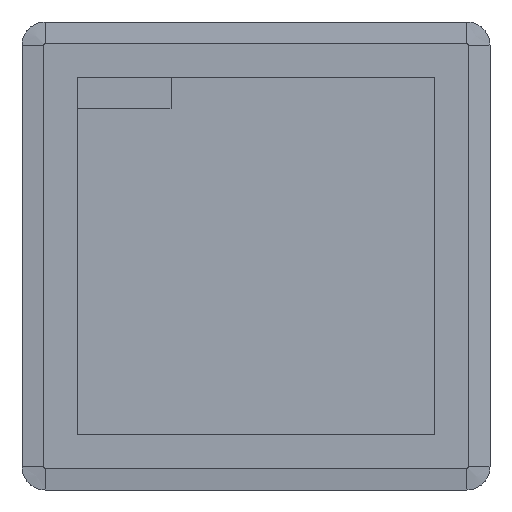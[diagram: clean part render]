
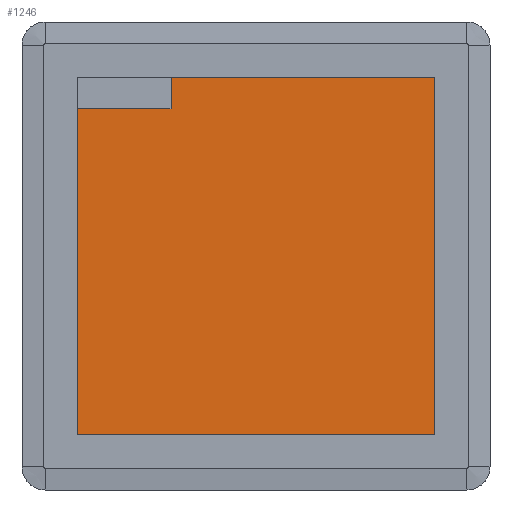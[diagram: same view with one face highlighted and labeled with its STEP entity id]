
A CAD part, front view. The second image highlights one B-rep face of the part: STEP entity #1246.
In plain terms, the highlighted planar face has unit normal (0, -1, 0).
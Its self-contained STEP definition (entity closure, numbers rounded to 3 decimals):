
#1246=ADVANCED_FACE('',(#2362),#19785,.T.);
#2362=FACE_OUTER_BOUND('',#3565,.T.);
#3565=EDGE_LOOP('',(#9564,#9565,#9566,#9567,#9568,#9569));
#9564=ORIENTED_EDGE('',*,*,#13023,.T.);
#9565=ORIENTED_EDGE('',*,*,#13022,.T.);
#9566=ORIENTED_EDGE('',*,*,#13021,.F.);
#9567=ORIENTED_EDGE('',*,*,#13019,.F.);
#9568=ORIENTED_EDGE('',*,*,#13020,.F.);
#9569=ORIENTED_EDGE('',*,*,#13024,.T.);
#13019=EDGE_CURVE('',#18614,#18615,#16363,.T.);
#13020=EDGE_CURVE('',#18616,#18614,#16364,.T.);
#13021=EDGE_CURVE('',#18615,#18619,#16365,.T.);
#13022=EDGE_CURVE('',#18618,#18619,#16366,.T.);
#13023=EDGE_CURVE('',#18617,#18618,#16367,.T.);
#13024=EDGE_CURVE('',#18616,#18617,#16368,.T.);
#16363=B_SPLINE_CURVE_WITH_KNOTS('',1,(#58825,#58826,#58827,#58828),
 .UNSPECIFIED.,.F.,.F.,(2,1,1,2),(-114.45,-64.969,-49.481,
0.),.UNSPECIFIED.);
#16364=B_SPLINE_CURVE_WITH_KNOTS('',1,(#58829,#58830,#58831,#58832,#58833,
#58834,#58835,#58836,#58837,#58838,#58839,#58840,#58841,#58842,#58843,#58844,
#58845,#58846,#58847,#58848,#58849,#58850,#58851,#58852,#58853,#58854),
 .UNSPECIFIED.,.F.,.F.,(2,1,1,1,1,1,1,1,1,1,1,1,1,1,1,1,1,1,1,1,1,1,1,1,
1,2),(-114.45,-110.809,-108.809,-101.109,-99.109,
-91.409,-89.409,-81.709,-79.709,-72.009,
-70.009,-62.309,-60.309,-52.609,-50.609,
-42.909,-40.909,-33.209,-31.209,
-23.509,-21.509,-13.809,-11.809,-4.109,
-2.109,0.),.UNSPECIFIED.);
#16365=B_SPLINE_CURVE_WITH_KNOTS('',1,(#58855,#58856,#58857,#58858,#58859,
#58860,#58861,#58862,#58863,#58864,#58865,#58866,#58867,#58868,#58869,#58870,
#58871,#58872,#58873,#58874,#58875,#58876,#58877,#58878),.UNSPECIFIED.,.F.,
 .F.,(2,1,1,1,1,1,1,1,1,1,1,1,1,1,1,1,1,1,1,1,1,1,1,2),(0.,2.109,
4.109,11.809,13.809,21.509,23.509,
31.209,33.209,40.909,42.909,50.609,
52.609,60.309,62.309,70.009,72.009,
79.709,81.709,89.409,91.409,99.109,
101.109,104.45),.UNSPECIFIED.);
#16366=B_SPLINE_CURVE_WITH_KNOTS('',1,(#58879,#58880,#58881),
 .UNSPECIFIED.,.F.,.F.,(2,1,2),(-30.,-29.568,0.),
 .UNSPECIFIED.);
#16367=B_SPLINE_CURVE_WITH_KNOTS('',1,(#58882,#58883,#58884,#58885,#58886),
 .UNSPECIFIED.,.F.,.F.,(2,1,1,1,2),(0.,0.251,2.251,
9.951,10.),.UNSPECIFIED.);
#16368=B_SPLINE_CURVE_WITH_KNOTS('',1,(#58887,#58888,#58889,#58890,#58891,
#58892),.UNSPECIFIED.,.F.,.F.,(2,1,1,1,1,2),(-64.527,-32.304,
-14.603,0.,17.701,19.923),
 .UNSPECIFIED.);
#18614=VERTEX_POINT('',#58602);
#18615=VERTEX_POINT('',#58603);
#18616=VERTEX_POINT('',#58604);
#18617=VERTEX_POINT('',#58605);
#18618=VERTEX_POINT('',#58606);
#18619=VERTEX_POINT('',#58607);
#19785=PLANE('',#20693);
#20693=AXIS2_PLACEMENT_3D('',#58540,#21585,$);
#21585=DIRECTION('',(0.,-1.,0.));
#58540=CARTESIAN_POINT('',(-57.225,-1.51,-57.225));
#58602=CARTESIAN_POINT('',(57.225,-1.51,-57.225));
#58603=CARTESIAN_POINT('',(-57.225,-1.51,-57.225));
#58604=CARTESIAN_POINT('',(57.225,-1.51,57.225));
#58605=CARTESIAN_POINT('',(-27.225,-1.51,57.225));
#58606=CARTESIAN_POINT('',(-27.225,-1.51,47.225));
#58607=CARTESIAN_POINT('',(-57.225,-1.51,47.225));
#58825=CARTESIAN_POINT('',(57.225,-1.51,-57.225));
#58826=CARTESIAN_POINT('',(7.744,-1.51,-57.225));
#58827=CARTESIAN_POINT('',(-7.744,-1.51,-57.225));
#58828=CARTESIAN_POINT('',(-57.225,-1.51,-57.225));
#58829=CARTESIAN_POINT('',(57.225,-1.51,57.225));
#58830=CARTESIAN_POINT('',(57.225,-1.51,53.584));
#58831=CARTESIAN_POINT('',(57.225,-1.51,51.584));
#58832=CARTESIAN_POINT('',(57.225,-1.51,43.884));
#58833=CARTESIAN_POINT('',(57.225,-1.51,41.884));
#58834=CARTESIAN_POINT('',(57.225,-1.51,34.184));
#58835=CARTESIAN_POINT('',(57.225,-1.51,32.184));
#58836=CARTESIAN_POINT('',(57.225,-1.51,24.484));
#58837=CARTESIAN_POINT('',(57.225,-1.51,22.484));
#58838=CARTESIAN_POINT('',(57.225,-1.51,14.784));
#58839=CARTESIAN_POINT('',(57.225,-1.51,12.784));
#58840=CARTESIAN_POINT('',(57.225,-1.51,5.084));
#58841=CARTESIAN_POINT('',(57.225,-1.51,3.084));
#58842=CARTESIAN_POINT('',(57.225,-1.51,-4.616));
#58843=CARTESIAN_POINT('',(57.225,-1.51,-6.616));
#58844=CARTESIAN_POINT('',(57.225,-1.51,-14.316));
#58845=CARTESIAN_POINT('',(57.225,-1.51,-16.316));
#58846=CARTESIAN_POINT('',(57.225,-1.51,-24.016));
#58847=CARTESIAN_POINT('',(57.225,-1.51,-26.016));
#58848=CARTESIAN_POINT('',(57.225,-1.51,-33.716));
#58849=CARTESIAN_POINT('',(57.225,-1.51,-35.716));
#58850=CARTESIAN_POINT('',(57.225,-1.51,-43.416));
#58851=CARTESIAN_POINT('',(57.225,-1.51,-45.416));
#58852=CARTESIAN_POINT('',(57.225,-1.51,-53.116));
#58853=CARTESIAN_POINT('',(57.225,-1.51,-55.116));
#58854=CARTESIAN_POINT('',(57.225,-1.51,-57.225));
#58855=CARTESIAN_POINT('',(-57.225,-1.51,-57.225));
#58856=CARTESIAN_POINT('',(-57.225,-1.51,-55.116));
#58857=CARTESIAN_POINT('',(-57.225,-1.51,-53.116));
#58858=CARTESIAN_POINT('',(-57.225,-1.51,-45.416));
#58859=CARTESIAN_POINT('',(-57.225,-1.51,-43.416));
#58860=CARTESIAN_POINT('',(-57.225,-1.51,-35.716));
#58861=CARTESIAN_POINT('',(-57.225,-1.51,-33.716));
#58862=CARTESIAN_POINT('',(-57.225,-1.51,-26.016));
#58863=CARTESIAN_POINT('',(-57.225,-1.51,-24.016));
#58864=CARTESIAN_POINT('',(-57.225,-1.51,-16.316));
#58865=CARTESIAN_POINT('',(-57.225,-1.51,-14.316));
#58866=CARTESIAN_POINT('',(-57.225,-1.51,-6.616));
#58867=CARTESIAN_POINT('',(-57.225,-1.51,-4.616));
#58868=CARTESIAN_POINT('',(-57.225,-1.51,3.084));
#58869=CARTESIAN_POINT('',(-57.225,-1.51,5.084));
#58870=CARTESIAN_POINT('',(-57.225,-1.51,12.784));
#58871=CARTESIAN_POINT('',(-57.225,-1.51,14.784));
#58872=CARTESIAN_POINT('',(-57.225,-1.51,22.484));
#58873=CARTESIAN_POINT('',(-57.225,-1.51,24.484));
#58874=CARTESIAN_POINT('',(-57.225,-1.51,32.184));
#58875=CARTESIAN_POINT('',(-57.225,-1.51,34.184));
#58876=CARTESIAN_POINT('',(-57.225,-1.51,41.884));
#58877=CARTESIAN_POINT('',(-57.225,-1.51,43.884));
#58878=CARTESIAN_POINT('',(-57.225,-1.51,47.225));
#58879=CARTESIAN_POINT('',(-27.225,-1.51,47.225));
#58880=CARTESIAN_POINT('',(-27.657,-1.51,47.225));
#58881=CARTESIAN_POINT('',(-57.225,-1.51,47.225));
#58882=CARTESIAN_POINT('',(-27.225,-1.51,57.225));
#58883=CARTESIAN_POINT('',(-27.225,-1.51,56.974));
#58884=CARTESIAN_POINT('',(-27.225,-1.51,54.974));
#58885=CARTESIAN_POINT('',(-27.225,-1.51,47.274));
#58886=CARTESIAN_POINT('',(-27.225,-1.51,47.225));
#58887=CARTESIAN_POINT('',(57.225,-1.51,57.225));
#58888=CARTESIAN_POINT('',(25.002,-1.51,57.225));
#58889=CARTESIAN_POINT('',(7.302,-1.51,57.225));
#58890=CARTESIAN_POINT('',(-7.302,-1.51,57.225));
#58891=CARTESIAN_POINT('',(-25.002,-1.51,57.225));
#58892=CARTESIAN_POINT('',(-27.225,-1.51,57.225));
